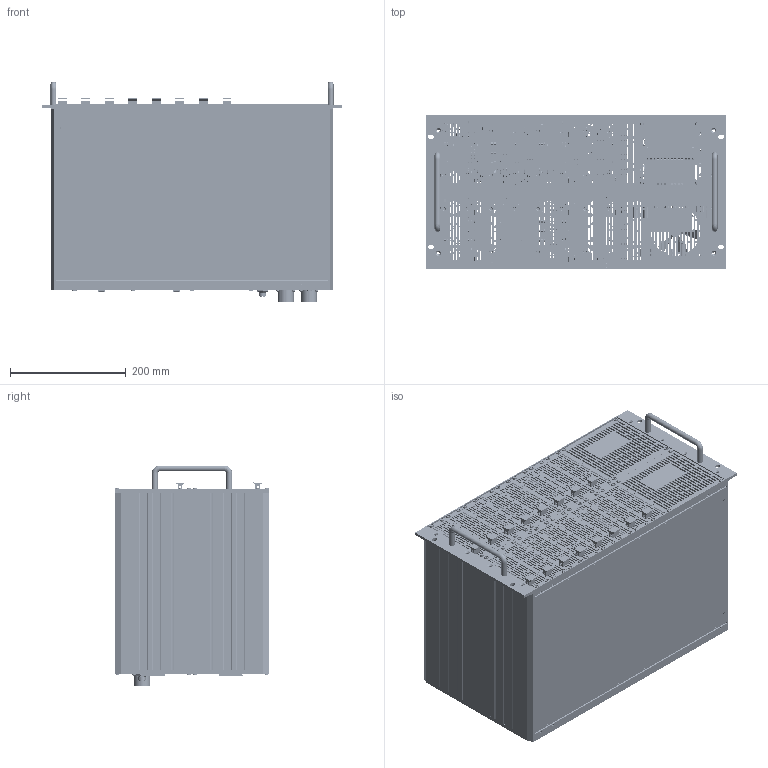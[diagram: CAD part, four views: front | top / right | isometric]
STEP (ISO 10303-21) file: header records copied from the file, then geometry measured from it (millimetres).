
FILE_DESCRIPTION (( 'STEP AP203' ), '1' );
FILE_NAME ('E82.C256K-J-諷秶儂眊.STEP', '2025-07-16T08:09:06', ( 'China' ), ( 'Home' ), 'SwSTEP 2.0', 'SolidWorks 2016', '' );
FILE_SCHEMA (( 'CONFIG_CONTROL_DESIGN' ));
Products named in the file (1): E82.C256K-J-諷秶儂眊
Bounding box: 518.8 x 266.8 x 381.55 mm (x, y, z)
Surface area: 3225098.9 mm2 (no closed solid volume)
Topology: 0 solids, 2506 shells, 17082 faces, 63743 edges, 48745 vertices
Faces by surface type: plane 10261, cylinder 5794, cone 704, bspline 219, sphere 83, torus 21
Entity records: 704068 total; most frequent: CARTESIAN_POINT 165918, DIRECTION 111224, ORIENTED_EDGE 94632, EDGE_CURVE 63728, VERTEX_POINT 48740, LINE 42096, VECTOR 42096, AXIS2_PLACEMENT_3D 34564
